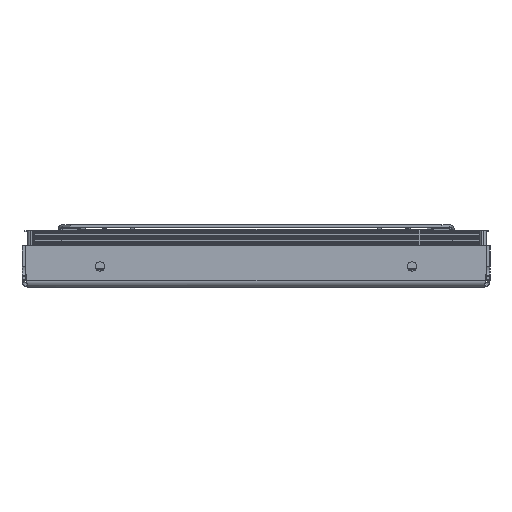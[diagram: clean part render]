
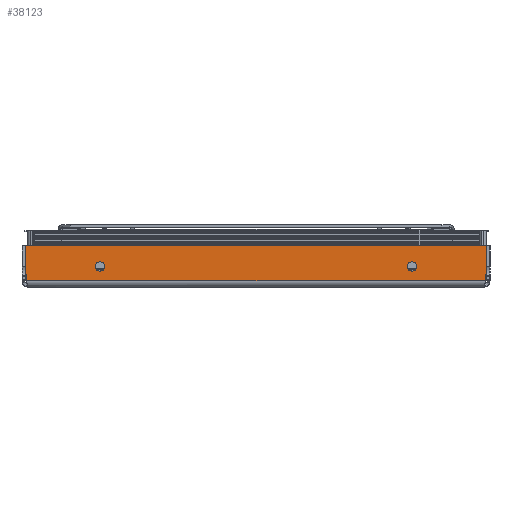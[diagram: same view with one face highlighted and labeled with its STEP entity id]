
A CAD part, left-side view. The second image highlights one B-rep face of the part: STEP entity #38123.
In plain terms, the highlighted planar face has unit normal (-1, 0, 0).
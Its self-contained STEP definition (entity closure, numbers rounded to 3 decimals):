
#1693=FACE_BOUND('',#5758,.T.);
#1694=FACE_BOUND('',#5759,.T.);
#2237=PLANE('',#40477);
#3529=FACE_OUTER_BOUND('',#5757,.T.);
#5757=EDGE_LOOP('',(#27295,#27296,#27297,#27298,#27299,#27300,#27301,#27302,
#27303,#27304));
#5758=EDGE_LOOP('',(#27305));
#5759=EDGE_LOOP('',(#27306));
#8546=LINE('',#55727,#12207);
#8553=LINE('',#55750,#12214);
#8554=LINE('',#55754,#12215);
#8555=LINE('',#55756,#12216);
#8556=LINE('',#55758,#12217);
#8557=LINE('',#55761,#12218);
#12207=VECTOR('',#44804,588.868);
#12214=VECTOR('',#44825,29.343);
#12215=VECTOR('',#44828,15.628);
#12216=VECTOR('',#44829,588.269);
#12217=VECTOR('',#44830,15.628);
#12218=VECTOR('',#44833,29.343);
#15418=CIRCLE('',#40315,6.);
#15422=CIRCLE('',#40321,6.);
#15436=CIRCLE('',#40469,1.);
#15440=CIRCLE('',#40476,1.);
#15441=CIRCLE('',#40478,1.);
#15442=CIRCLE('',#40479,1.);
#16819=VERTEX_POINT('',#54956);
#16823=VERTEX_POINT('',#54966);
#17074=VERTEX_POINT('',#55717);
#17075=VERTEX_POINT('',#55719);
#17077=VERTEX_POINT('',#55725);
#17085=VERTEX_POINT('',#55745);
#17086=VERTEX_POINT('',#55749);
#17087=VERTEX_POINT('',#55751);
#17088=VERTEX_POINT('',#55753);
#17089=VERTEX_POINT('',#55755);
#17090=VERTEX_POINT('',#55757);
#17091=VERTEX_POINT('',#55759);
#20723=EDGE_CURVE('',#16819,#16819,#15418,.T.);
#20727=EDGE_CURVE('',#16823,#16823,#15422,.T.);
#21094=EDGE_CURVE('',#17074,#17075,#15436,.T.);
#21098=EDGE_CURVE('',#17077,#17074,#8546,.T.);
#21107=EDGE_CURVE('',#17085,#17077,#15440,.T.);
#21109=EDGE_CURVE('',#17085,#17086,#8553,.T.);
#21110=EDGE_CURVE('',#17086,#17087,#15441,.T.);
#21111=EDGE_CURVE('',#17087,#17088,#8554,.T.);
#21112=EDGE_CURVE('',#17088,#17089,#8555,.T.);
#21113=EDGE_CURVE('',#17089,#17090,#8556,.T.);
#21114=EDGE_CURVE('',#17090,#17091,#15442,.T.);
#21115=EDGE_CURVE('',#17091,#17075,#8557,.T.);
#27295=ORIENTED_EDGE('',*,*,#21094,.F.);
#27296=ORIENTED_EDGE('',*,*,#21098,.F.);
#27297=ORIENTED_EDGE('',*,*,#21107,.F.);
#27298=ORIENTED_EDGE('',*,*,#21109,.T.);
#27299=ORIENTED_EDGE('',*,*,#21110,.T.);
#27300=ORIENTED_EDGE('',*,*,#21111,.T.);
#27301=ORIENTED_EDGE('',*,*,#21112,.T.);
#27302=ORIENTED_EDGE('',*,*,#21113,.T.);
#27303=ORIENTED_EDGE('',*,*,#21114,.T.);
#27304=ORIENTED_EDGE('',*,*,#21115,.T.);
#27305=ORIENTED_EDGE('',*,*,#20723,.T.);
#27306=ORIENTED_EDGE('',*,*,#20727,.T.);
#38123=ADVANCED_FACE('',(#3529,#1693,#1694),#2237,.T.);
#40315=AXIS2_PLACEMENT_3D('',#54957,#44136,#44137);
#40321=AXIS2_PLACEMENT_3D('',#54967,#44148,#44149);
#40469=AXIS2_PLACEMENT_3D('',#55720,#44797,#44798);
#40476=AXIS2_PLACEMENT_3D('',#55746,#44820,#44821);
#40477=AXIS2_PLACEMENT_3D('',#55748,#44823,#44824);
#40478=AXIS2_PLACEMENT_3D('',#55752,#44826,#44827);
#40479=AXIS2_PLACEMENT_3D('',#55760,#44831,#44832);
#44136=DIRECTION('center_axis',(1.,0.,0.));
#44137=DIRECTION('ref_axis',(0.,0.,-1.));
#44148=DIRECTION('center_axis',(1.,0.,0.));
#44149=DIRECTION('ref_axis',(0.,0.,-1.));
#44797=DIRECTION('center_axis',(1.,0.,0.));
#44798=DIRECTION('ref_axis',(0.,0.707,-0.707));
#44804=DIRECTION('',(0.,1.,0.));
#44820=DIRECTION('center_axis',(1.,0.,0.));
#44821=DIRECTION('ref_axis',(0.,-0.707,-0.707));
#44823=DIRECTION('center_axis',(-1.,0.,0.));
#44824=DIRECTION('ref_axis',(0.,0.,1.));
#44825=DIRECTION('',(0.,0.,1.));
#44826=DIRECTION('center_axis',(-1.,0.,0.));
#44827=DIRECTION('ref_axis',(0.,-1.,0.));
#44828=DIRECTION('',(0.,0.083,0.997));
#44829=DIRECTION('',(0.,1.,0.));
#44830=DIRECTION('',(0.,0.083,-0.997));
#44831=DIRECTION('center_axis',(-1.,0.,0.));
#44832=DIRECTION('ref_axis',(0.,1.,0.));
#44833=DIRECTION('',(0.,0.,-1.));
#54956=CARTESIAN_POINT('',(-450.,-200.,-16.5));
#54957=CARTESIAN_POINT('Origin',(-450.,-200.,-22.5));
#54966=CARTESIAN_POINT('',(-450.,200.,-16.5));
#54967=CARTESIAN_POINT('Origin',(-450.,200.,-22.5));
#55717=CARTESIAN_POINT('',(-450.,294.434,-50.));
#55719=CARTESIAN_POINT('',(-450.,295.434,-49.));
#55720=CARTESIAN_POINT('Origin',(-450.,294.434,-49.));
#55725=CARTESIAN_POINT('',(-450.,-294.434,-50.));
#55727=CARTESIAN_POINT('',(-450.,-295.9,-50.));
#55745=CARTESIAN_POINT('',(-450.,-295.434,-49.));
#55746=CARTESIAN_POINT('Origin',(-450.,-294.434,-49.));
#55748=CARTESIAN_POINT('Origin',(-450.,0.,-23.049));
#55749=CARTESIAN_POINT('',(-450.,-295.434,-19.657));
#55750=CARTESIAN_POINT('',(-450.,-295.434,-21.353));
#55751=CARTESIAN_POINT('',(-450.,-295.431,-19.575));
#55752=CARTESIAN_POINT('Origin',(-450.,-294.434,-19.657));
#55753=CARTESIAN_POINT('',(-450.,-294.134,-4.));
#55754=CARTESIAN_POINT('',(-450.,-293.91,-1.302));
#55755=CARTESIAN_POINT('',(-450.,294.134,-4.));
#55756=CARTESIAN_POINT('',(-450.,0.,-4.));
#55757=CARTESIAN_POINT('',(-450.,295.431,-19.575));
#55758=CARTESIAN_POINT('',(-450.,293.91,-1.302));
#55759=CARTESIAN_POINT('',(-450.,295.434,-19.657));
#55760=CARTESIAN_POINT('Origin',(-450.,294.434,-19.657));
#55761=CARTESIAN_POINT('',(-450.,295.434,-21.353));
